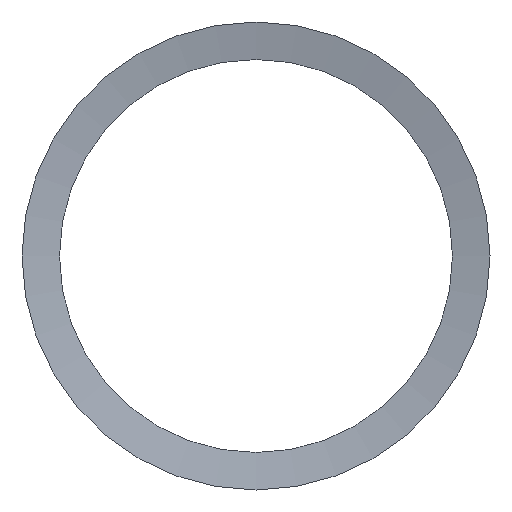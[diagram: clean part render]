
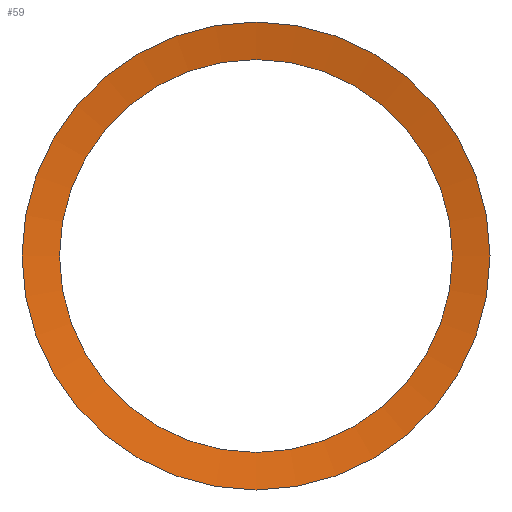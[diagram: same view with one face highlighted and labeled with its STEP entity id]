
A CAD part, front view. The second image highlights one B-rep face of the part: STEP entity #59.
In plain terms, the highlighted conical face has half-angle 80 degrees and reference radius 39.579 mm.
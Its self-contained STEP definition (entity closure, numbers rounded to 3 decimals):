
#13=CONICAL_SURFACE($,#69,39.579,80.);
#16=FACE_BOUND($,#27,.T.);
#20=FACE_OUTER_BOUND($,#26,.T.);
#26=EDGE_LOOP($,(#46));
#27=EDGE_LOOP($,(#47));
#31=CIRCLE($,#66,38.);
#33=CIRCLE($,#70,45.25);
#35=VERTEX_POINT($,#94);
#37=VERTEX_POINT($,#100);
#39=EDGE_CURVE($,#35,#35,#31,.T.);
#41=EDGE_CURVE($,#37,#37,#33,.T.);
#46=ORIENTED_EDGE($,*,*,#39,.T.);
#47=ORIENTED_EDGE($,*,*,#41,.F.);
#59=ADVANCED_FACE($,(#20,#16),#13,.F.);
#66=AXIS2_PLACEMENT_3D($,#95,#78,#79);
#69=AXIS2_PLACEMENT_3D($,#99,#84,#85);
#70=AXIS2_PLACEMENT_3D($,#101,#86,#87);
#78=DIRECTION('center_axis',(0.,1.,0.));
#79=DIRECTION('ref_axis',(1.,0.,0.));
#84=DIRECTION('center_axis',(0.,-1.,0.));
#85=DIRECTION('ref_axis',(-1.,0.,0.));
#86=DIRECTION('center_axis',(0.,1.,0.));
#87=DIRECTION('ref_axis',(-1.,0.,0.));
#94=CARTESIAN_POINT('',(-38.,-0.722,0.));
#95=CARTESIAN_POINT('Origin',(0.,-0.722,0.));
#99=CARTESIAN_POINT('Origin',(0.,-1.,0.));
#100=CARTESIAN_POINT('',(-45.25,-2.,0.));
#101=CARTESIAN_POINT('Origin',(0.,-2.,0.));
